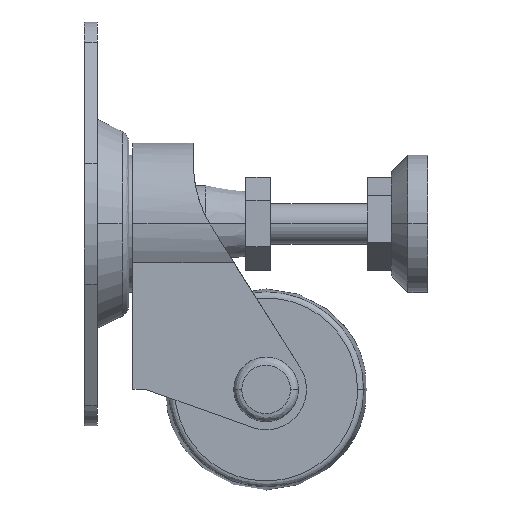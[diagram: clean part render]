
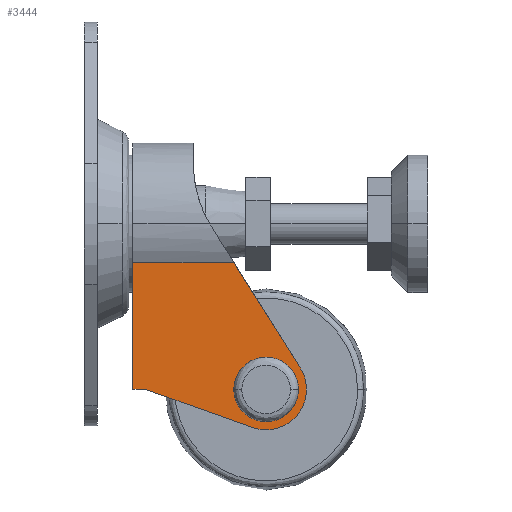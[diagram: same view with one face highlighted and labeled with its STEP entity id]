
A CAD part, left-side view. The second image highlights one B-rep face of the part: STEP entity #3444.
In plain terms, the highlighted planar face has unit normal (-1, 0, 0) as drawn and (0, 0, 1) by its records, which use the part's own axes.
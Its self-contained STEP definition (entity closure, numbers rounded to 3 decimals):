
#1 = VECTOR ( 'NONE', #3253, 1000. ) ;
#179 = ORIENTED_EDGE ( 'NONE', *, *, #2240, .F. ) ;
#232 = DIRECTION ( 'NONE',  ( 0., 0., 1. ) ) ;
#260 = VERTEX_POINT ( 'NONE', #1618 ) ;
#272 = DIRECTION ( 'NONE',  ( 0., 0., -1. ) ) ;
#279 = LINE ( 'NONE', #3114, #992 ) ;
#328 = VERTEX_POINT ( 'NONE', #1145 ) ;
#396 = CARTESIAN_POINT ( 'NONE',  ( -9.682, -43., 17.5 ) ) ;
#452 = EDGE_CURVE ( 'NONE', #260, #3873, #795, .T. ) ;
#536 = AXIS2_PLACEMENT_3D ( 'NONE', #920, #272, #2231 ) ;
#557 = CARTESIAN_POINT ( 'NONE',  ( -35.67, -41.461, 17.5 ) ) ;
#576 = CARTESIAN_POINT ( 'NONE',  ( -41., -33., 17.5 ) ) ;
#641 = CARTESIAN_POINT ( 'NONE',  ( -9.682, -25.092, 17.5 ) ) ;
#706 = LINE ( 'NONE', #396, #1 ) ;
#713 = FACE_OUTER_BOUND ( 'NONE', #3205, .T. ) ;
#795 = CIRCLE ( 'NONE', #536, 8. ) ;
#820 = DIRECTION ( 'NONE',  ( 1., 0., 0. ) ) ;
#886 = EDGE_CURVE ( 'NONE', #2857, #2994, #1674, .T. ) ;
#920 = CARTESIAN_POINT ( 'NONE',  ( -41., -33., 17.5 ) ) ;
#992 = VECTOR ( 'NONE', #1543, 1000. ) ;
#1048 = CARTESIAN_POINT ( 'NONE',  ( 0., 0., 17.5 ) ) ;
#1118 = CARTESIAN_POINT ( 'NONE',  ( -4.733, 0., 17.5 ) ) ;
#1145 = CARTESIAN_POINT ( 'NONE',  ( -9.682, 0., 17.5 ) ) ;
#1184 = EDGE_CURVE ( 'NONE', #3548, #3716, #279, .T. ) ;
#1211 = CARTESIAN_POINT ( 'NONE',  ( -50.42, -29.644, 17.5 ) ) ;
#1259 = VECTOR ( 'NONE', #1487, 1000. ) ;
#1263 = VECTOR ( 'NONE', #2660, 1000. ) ;
#1403 = CARTESIAN_POINT ( 'NONE',  ( -41., 0., 17.5 ) ) ;
#1487 = DIRECTION ( 'NONE',  ( -0.336, -0.942, 0. ) ) ;
#1496 = CARTESIAN_POINT ( 'NONE',  ( -41., -33., 17.5 ) ) ;
#1543 = DIRECTION ( 'NONE',  ( 0.846, 0.533, 0. ) ) ;
#1603 = LINE ( 'NONE', #1048, #1263 ) ;
#1618 = CARTESIAN_POINT ( 'NONE',  ( -41., -25., 17.5 ) ) ;
#1653 = LINE ( 'NONE', #3713, #1259 ) ;
#1674 = LINE ( 'NONE', #3912, #3705 ) ;
#1764 = DIRECTION ( 'NONE',  ( 0., -1., 0. ) ) ;
#1881 = EDGE_LOOP ( 'NONE', ( #3445, #3781 ) ) ;
#1975 = VERTEX_POINT ( 'NONE', #1211 ) ;
#2101 = FACE_BOUND ( 'NONE', #1881, .T. ) ;
#2153 = DIRECTION ( 'NONE',  ( 0., 1., 0. ) ) ;
#2157 = DIRECTION ( 'NONE',  ( 1., 0., 0. ) ) ;
#2231 = DIRECTION ( 'NONE',  ( 0., 1., 0. ) ) ;
#2240 = EDGE_CURVE ( 'NONE', #2857, #328, #1603, .T. ) ;
#2424 = CARTESIAN_POINT ( 'NONE',  ( -41., -41., 17.5 ) ) ;
#2510 = EDGE_CURVE ( 'NONE', #1975, #3548, #3035, .T. ) ;
#2547 = ORIENTED_EDGE ( 'NONE', *, *, #3960, .F. ) ;
#2560 = EDGE_CURVE ( 'NONE', #2994, #1975, #1653, .T. ) ;
#2600 = CIRCLE ( 'NONE', #4080, 8. ) ;
#2614 = ORIENTED_EDGE ( 'NONE', *, *, #1184, .T. ) ;
#2660 = DIRECTION ( 'NONE',  ( 1., 0., 0. ) ) ;
#2701 = PLANE ( 'NONE',  #3426 ) ;
#2857 = VERTEX_POINT ( 'NONE', #1403 ) ;
#2994 = VERTEX_POINT ( 'NONE', #3046 ) ;
#3014 = EDGE_CURVE ( 'NONE', #3873, #260, #2600, .T. ) ;
#3023 = DIRECTION ( 'NONE',  ( 0., 0., 1. ) ) ;
#3035 = CIRCLE ( 'NONE', #3931, 10. ) ;
#3046 = CARTESIAN_POINT ( 'NONE',  ( -41., -3.2, 17.5 ) ) ;
#3093 = ORIENTED_EDGE ( 'NONE', *, *, #2510, .T. ) ;
#3114 = CARTESIAN_POINT ( 'NONE',  ( -35.67, -41.461, 17.5 ) ) ;
#3205 = EDGE_LOOP ( 'NONE', ( #3698, #3093, #2614, #2547, #179, #3811 ) ) ;
#3253 = DIRECTION ( 'NONE',  ( 0., -1., 0. ) ) ;
#3426 = AXIS2_PLACEMENT_3D ( 'NONE', #1118, #3023, #820 ) ;
#3444 = ADVANCED_FACE ( 'NONE', ( #713, #2101 ), #2701, .T. ) ;
#3445 = ORIENTED_EDGE ( 'NONE', *, *, #452, .T. ) ;
#3548 = VERTEX_POINT ( 'NONE', #557 ) ;
#3698 = ORIENTED_EDGE ( 'NONE', *, *, #2560, .T. ) ;
#3705 = VECTOR ( 'NONE', #1764, 1000. ) ;
#3713 = CARTESIAN_POINT ( 'NONE',  ( -41., -3.2, 17.5 ) ) ;
#3716 = VERTEX_POINT ( 'NONE', #641 ) ;
#3781 = ORIENTED_EDGE ( 'NONE', *, *, #3014, .T. ) ;
#3811 = ORIENTED_EDGE ( 'NONE', *, *, #886, .T. ) ;
#3873 = VERTEX_POINT ( 'NONE', #2424 ) ;
#3912 = CARTESIAN_POINT ( 'NONE',  ( -41., 0., 17.5 ) ) ;
#3931 = AXIS2_PLACEMENT_3D ( 'NONE', #1496, #232, #2157 ) ;
#3960 = EDGE_CURVE ( 'NONE', #328, #3716, #706, .T. ) ;
#3981 = DIRECTION ( 'NONE',  ( 0., 0., -1. ) ) ;
#4080 = AXIS2_PLACEMENT_3D ( 'NONE', #576, #3981, #2153 ) ;
